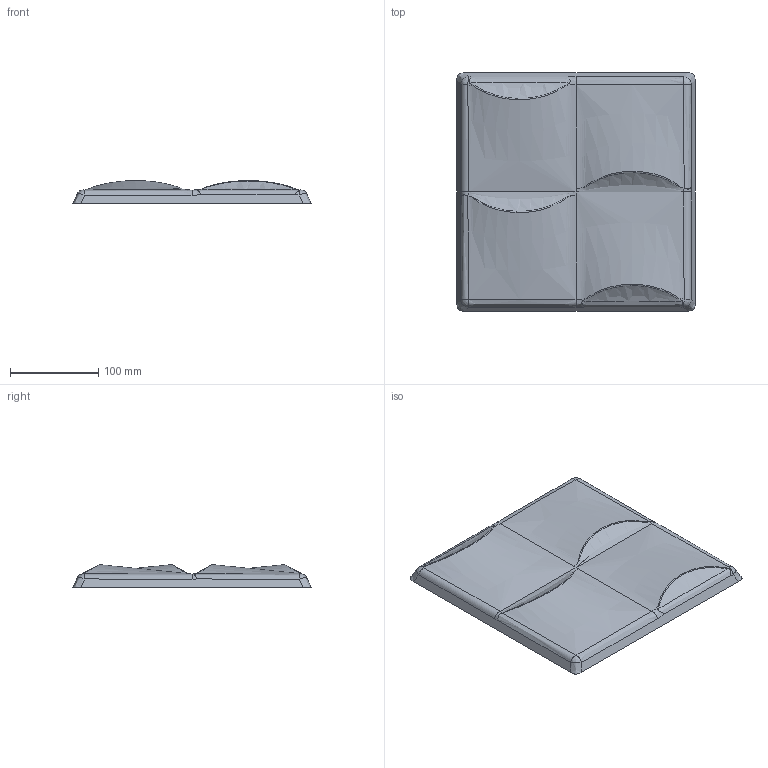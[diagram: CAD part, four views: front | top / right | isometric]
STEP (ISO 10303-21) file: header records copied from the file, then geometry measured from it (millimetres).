
FILE_DESCRIPTION (( 'STEP AP214' ), '1' );
FILE_NAME ('PCPD1461-02 Tyle Cork Acoustic Panel.STEP', '2021-12-13T15:56:14', ( '' ), ( '' ), 'SwSTEP 2.0', 'SolidWorks 2021', '' );
FILE_SCHEMA (( 'AUTOMOTIVE_DESIGN' ));
Length unit declared in the file: millimetre
Products named in the file (1): PCPD1461-02 Tyle Cork Acoustic Panel
Bounding box: 270 x 270 x 25.69 mm (x, y, z)
Volume: 899247.8 mm3; surface area: 166338.1 mm2
Topology: 1 solids, 1 shells, 225 faces, 556 edges, 351 vertices
Faces by surface type: bspline 157, plane 65, cylinder 3
Entity records: 28255 total; most frequent: CARTESIAN_POINT 24145, ORIENTED_EDGE 1108, EDGE_CURVE 554, B_SPLINE_CURVE_WITH_KNOTS 378, VERTEX_POINT 351, DIRECTION 320, EDGE_LOOP 245, ADVANCED_FACE 225
